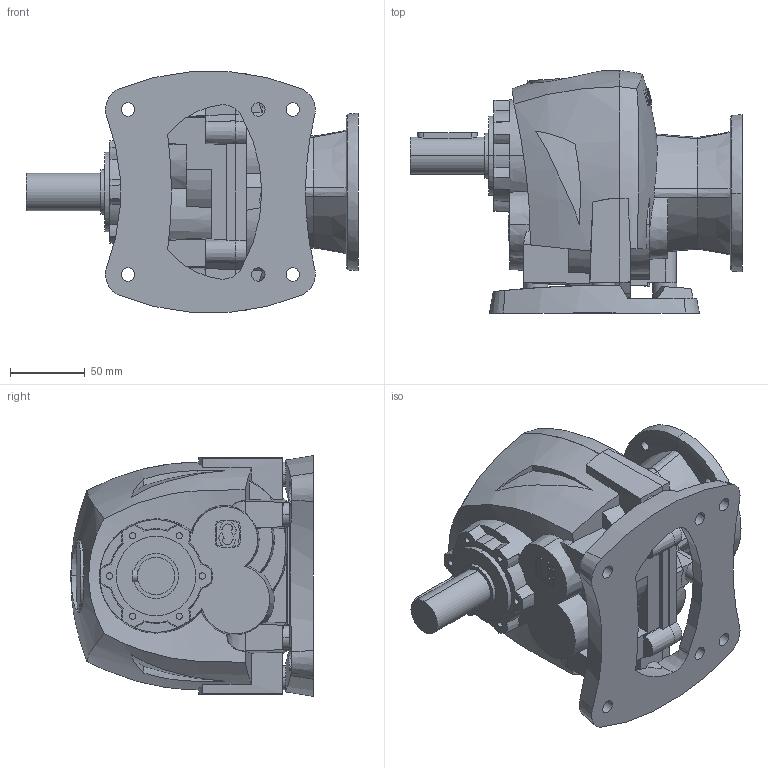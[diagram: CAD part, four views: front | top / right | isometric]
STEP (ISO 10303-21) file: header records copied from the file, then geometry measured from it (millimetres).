
FILE_DESCRIPTION (( 'STEP AP203' ), '1' );
FILE_NAME ('RBA2_IFL71B4_FSW_OSH25L50.STEP', '2013-02-07T09:31:51', ( '' ), ( '' ), 'SwSTEP 2.0', 'SolidWorks 2012', '' );
FILE_SCHEMA (( 'CONFIG_CONTROL_DESIGN' ));
Length unit declared in the file: millimetre
Products named in the file (1): RBA2_IFL71B4_FSW_OSH25L50
Bounding box: 221.5 x 161.88 x 160.7 mm (x, y, z)
Volume: 1979844.2 mm3; surface area: 161257.5 mm2
Topology: 1 solids, 1 shells, 515 faces, 1467 edges, 976 vertices
Faces by surface type: plane 226, cylinder 142, bspline 72, cone 71, torus 4
Entity records: 23186 total; most frequent: CARTESIAN_POINT 10809, ORIENTED_EDGE 2934, DIRECTION 2071, EDGE_CURVE 1467, VERTEX_POINT 976, AXIS2_PLACEMENT_3D 783, B_SPLINE_CURVE_WITH_KNOTS 570, EDGE_LOOP 567
